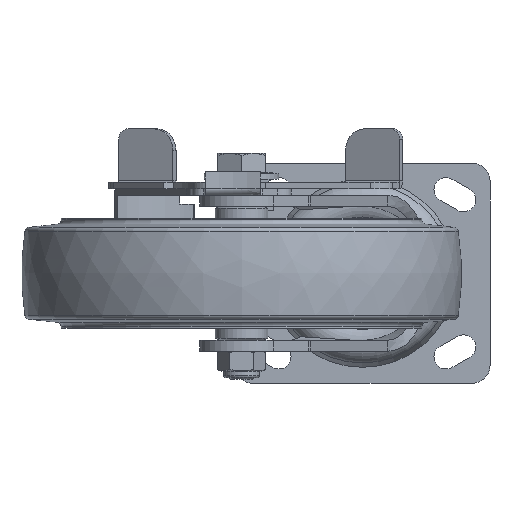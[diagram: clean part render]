
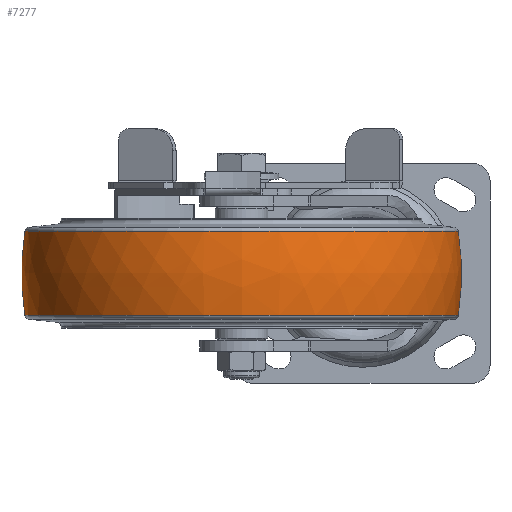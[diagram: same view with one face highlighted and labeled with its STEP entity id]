
A CAD part, front view. The second image highlights one B-rep face of the part: STEP entity #7277.
In plain terms, the highlighted free-form (B-spline) face has degree [3, 3] with [7, 4] control points.
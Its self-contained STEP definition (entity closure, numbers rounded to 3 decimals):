
#5350=CARTESIAN_POINT('',(-19.172,0.,0.));
#5351=DIRECTION('',(-1.,0.,0.));
#5352=DIRECTION('',(0.,1.,0.));
#5353=AXIS2_PLACEMENT_3D('',#5350,#5351,#5352);
#5355=CARTESIAN_POINT('',(0.,-26.741,0.));
#5356=DIRECTION('',(0.,0.,1.));
#5357=DIRECTION('',(0.151,0.988,0.));
#5358=AXIS2_PLACEMENT_3D('',#5355,#5356,#5357);
#5360=CARTESIAN_POINT('',(0.,26.741,0.));
#5361=DIRECTION('',(0.,0.,-1.));
#5362=DIRECTION('',(0.151,-0.988,0.));
#5363=AXIS2_PLACEMENT_3D('',#5360,#5361,#5362);
#5365=CARTESIAN_POINT('',(19.172,0.,0.));
#5366=DIRECTION('',(-1.,0.,0.));
#5367=DIRECTION('',(0.,1.,0.));
#5368=AXIS2_PLACEMENT_3D('',#5365,#5366,#5367);
#6056=CARTESIAN_POINT('',(19.172,98.542,
0.));
#6057=VERTEX_POINT('',#6056);
#6058=CARTESIAN_POINT('',(-19.172,98.542,
0.));
#6059=VERTEX_POINT('',#6058);
#6076=CARTESIAN_POINT('',(19.172,-98.542,
0.));
#6077=VERTEX_POINT('',#6076);
#6078=CARTESIAN_POINT('',(-19.172,-98.542,
0.));
#6079=VERTEX_POINT('',#6078);
#7239=CARTESIAN_POINT('',(-19.933,-98.229,
6.18));
#7240=CARTESIAN_POINT('',(-6.7,-100.332,
6.312));
#7241=CARTESIAN_POINT('',(6.7,-100.332,6.312));
#7242=CARTESIAN_POINT('',(19.933,-98.229,6.18));
#7243=CARTESIAN_POINT('',(-19.933,-102.032,
-54.27));
#7244=CARTESIAN_POINT('',(-6.7,-104.216,
-55.432));
#7245=CARTESIAN_POINT('',(6.7,-104.216,
-55.432));
#7246=CARTESIAN_POINT('',(19.933,-102.032,
-54.27));
#7247=CARTESIAN_POINT('',(-19.933,-60.569,
-98.423));
#7248=CARTESIAN_POINT('',(-6.7,-61.866,
-100.53));
#7249=CARTESIAN_POINT('',(6.7,-61.866,
-100.53));
#7250=CARTESIAN_POINT('',(19.933,-60.569,
-98.423));
#7251=CARTESIAN_POINT('',(-19.933,0.,
-98.423));
#7252=CARTESIAN_POINT('',(-6.7,0.,
-100.53));
#7253=CARTESIAN_POINT('',(6.7,0.,
-100.53));
#7254=CARTESIAN_POINT('',(19.933,0.,
-98.423));
#7255=CARTESIAN_POINT('',(-19.933,60.569,
-98.423));
#7256=CARTESIAN_POINT('',(-6.7,61.866,
-100.53));
#7257=CARTESIAN_POINT('',(6.7,61.866,-100.53));
#7258=CARTESIAN_POINT('',(19.933,60.569,-98.423));
#7259=CARTESIAN_POINT('',(-19.933,102.032,
-54.27));
#7260=CARTESIAN_POINT('',(-6.7,104.216,
-55.432));
#7261=CARTESIAN_POINT('',(6.7,104.216,-55.432));
#7262=CARTESIAN_POINT('',(19.933,102.032,-54.27));
#7263=CARTESIAN_POINT('',(-19.933,98.229,6.18));
#7264=CARTESIAN_POINT('',(-6.7,100.332,6.312));
#7265=CARTESIAN_POINT('',(6.7,100.332,6.312));
#7266=CARTESIAN_POINT('',(19.933,98.229,6.18));
#7267=(BOUNDED_SURFACE()B_SPLINE_SURFACE(3,3,((#7239,#7240,#7241,#7242),(#7243,
#7244,#7245,#7246),(#7247,#7248,#7249,#7250),(#7251,#7252,#7253,#7254),(#7255,
#7256,#7257,#7258),(#7259,#7260,#7261,#7262),(#7263,#7264,#7265,#7266)),
.UNSPECIFIED.,.F.,.F.,.F.)B_SPLINE_SURFACE_WITH_KNOTS((4,3,4),(4,4),(0.,1.,
2.),(0.,1.),.UNSPECIFIED.)GEOMETRIC_REPRESENTATION_ITEM()RATIONAL_B_SPLINE_SURFACE(((1.195,1.185,1.185,1.195),(
0.943,0.936,0.936,0.943),(
0.943,0.936,0.936,0.943),(
1.195,1.185,1.185,1.195),(
0.943,0.936,0.936,0.943),(
0.943,0.936,0.936,0.943),(
1.195,1.185,1.185,1.195)))REPRESENTATION_ITEM('')SURFACE());
#7269=ORIENTED_EDGE('',*,*,#7268,.T.);
#7270=ORIENTED_EDGE('',*,*,#7234,.T.);
#7272=ORIENTED_EDGE('',*,*,#7271,.F.);
#7274=ORIENTED_EDGE('',*,*,#7273,.F.);
#7275=EDGE_LOOP('',(#7269,#7270,#7272,#7274));
#7276=FACE_OUTER_BOUND('',#7275,.F.);
#5354=CIRCLE('',#5353,98.542);
#5359=CIRCLE('',#5358,126.741);
#5364=CIRCLE('',#5363,126.741);
#5369=CIRCLE('',#5368,98.542);
#7234=EDGE_CURVE('',#6059,#6079,#5354,.T.);
#7268=EDGE_CURVE('',#6057,#6059,#5359,.T.);
#7271=EDGE_CURVE('',#6077,#6079,#5364,.T.);
#7273=EDGE_CURVE('',#6057,#6077,#5369,.T.);
#7277=ADVANCED_FACE('',(#7276),#7267,.T.);
